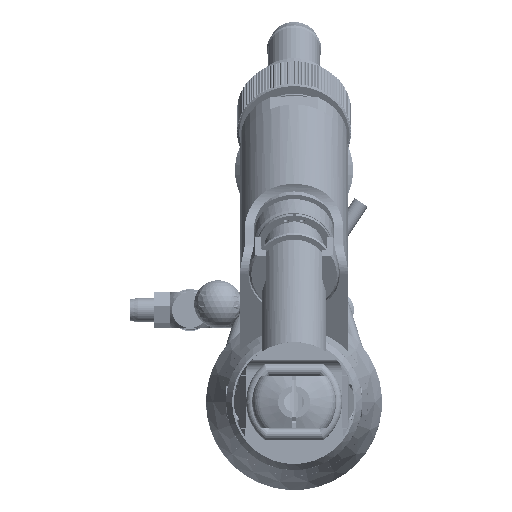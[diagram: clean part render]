
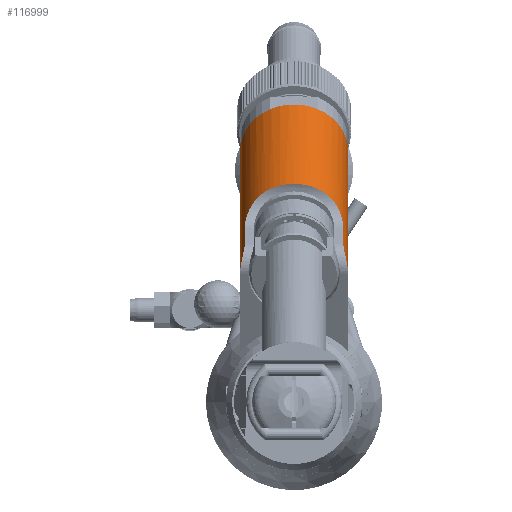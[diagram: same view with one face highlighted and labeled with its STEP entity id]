
A CAD part, left-side view. The second image highlights one B-rep face of the part: STEP entity #116999.
In plain terms, the highlighted cylindrical face has radius 13.5 mm (diameter 27 mm), a partial arc.
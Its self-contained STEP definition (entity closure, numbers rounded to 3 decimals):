
#9151=LINE($,#223098,#15155);
#9533=LINE($,#226544,#15537);
#9538=LINE($,#226561,#15542);
#9539=LINE($,#226574,#15543);
#9540=LINE($,#226610,#15544);
#9541=LINE($,#226622,#15545);
#15155=VECTOR($,#155319,9.);
#15537=VECTOR($,#156695,9.);
#15542=VECTOR($,#156714,50.9);
#15543=VECTOR($,#156715,7.82);
#15544=VECTOR($,#156716,7.82);
#15545=VECTOR($,#156717,50.9);
#21338=B_SPLINE_CURVE_WITH_KNOTS($,3,(#226563,#226564,#226565,#226566,#226567,
#226568,#226569,#226570,#226571,#226572),.UNSPECIFIED.,.F.,.F.,(4,2,2,2,
4),(-1.679,-1.469,-1.259,-1.049,
-0.839),.UNSPECIFIED.);
#21339=B_SPLINE_CURVE_WITH_KNOTS($,3,(#226576,#226577,#226578,#226579,#226580,
#226581,#226582,#226583,#226584,#226585,#226586,#226587,#226588,#226589,
#226590,#226591),.UNSPECIFIED.,.F.,.F.,(4,2,2,2,2,2,2,4),(1.901,
2.307,2.713,2.896,3.08,3.26,
3.441,3.801),.UNSPECIFIED.);
#21340=B_SPLINE_CURVE_WITH_KNOTS($,3,(#226593,#226594,#226595,#226596,#226597,
#226598,#226599,#226600,#226601,#226602,#226603,#226604,#226605,#226606,
#226607,#226608),.UNSPECIFIED.,.F.,.F.,(4,2,2,2,2,2,2,4),(0.,
0.36,0.541,0.721,0.905,
1.089,1.495,1.901),.UNSPECIFIED.);
#21341=B_SPLINE_CURVE_WITH_KNOTS($,3,(#226612,#226613,#226614,#226615,#226616,
#226617,#226618,#226619,#226620,#226621),.UNSPECIFIED.,.F.,.F.,(4,2,2,2,
4),(-2.518,-2.309,-2.099,-1.889,
-1.679),.UNSPECIFIED.);
#23562=CYLINDRICAL_SURFACE($,#128860,13.5);
#31803=FACE_OUTER_BOUND($,#39869,.T.);
#39869=EDGE_LOOP($,(#99204,#99205,#99206,#99207,#99208,#99209,#99210,#99211,
#99212,#99213,#99214,#99215,#99216));
#46625=CIRCLE($,#128858,13.5);
#46626=CIRCLE($,#128859,13.5);
#46627=CIRCLE($,#128861,13.5);
#55981=VERTEX_POINT($,#223095);
#55982=VERTEX_POINT($,#223097);
#56507=VERTEX_POINT($,#226541);
#56508=VERTEX_POINT($,#226543);
#56509=VERTEX_POINT($,#226549);
#56512=VERTEX_POINT($,#226555);
#56513=VERTEX_POINT($,#226560);
#56514=VERTEX_POINT($,#226562);
#56515=VERTEX_POINT($,#226573);
#56516=VERTEX_POINT($,#226575);
#56517=VERTEX_POINT($,#226592);
#56518=VERTEX_POINT($,#226609);
#56519=VERTEX_POINT($,#226611);
#70620=EDGE_CURVE($,#55982,#55981,#9151,.T.);
#71404=EDGE_CURVE($,#56508,#56507,#9533,.T.);
#71407=EDGE_CURVE($,#55982,#56509,#46625,.T.);
#71411=EDGE_CURVE($,#56512,#56507,#46626,.T.);
#71412=EDGE_CURVE($,#56508,#55981,#46627,.T.);
#71413=EDGE_CURVE($,#56513,#56512,#9538,.T.);
#71414=EDGE_CURVE($,#56514,#56513,#21338,.T.);
#71415=EDGE_CURVE($,#56515,#56514,#9539,.T.);
#71416=EDGE_CURVE($,#56516,#56515,#21339,.T.);
#71417=EDGE_CURVE($,#56517,#56516,#21340,.T.);
#71418=EDGE_CURVE($,#56518,#56517,#9540,.T.);
#71419=EDGE_CURVE($,#56519,#56518,#21341,.T.);
#71420=EDGE_CURVE($,#56519,#56509,#9541,.T.);
#99204=ORIENTED_EDGE($,*,*,#70620,.T.);
#99205=ORIENTED_EDGE($,*,*,#71412,.F.);
#99206=ORIENTED_EDGE($,*,*,#71404,.T.);
#99207=ORIENTED_EDGE($,*,*,#71411,.F.);
#99208=ORIENTED_EDGE($,*,*,#71413,.F.);
#99209=ORIENTED_EDGE($,*,*,#71414,.F.);
#99210=ORIENTED_EDGE($,*,*,#71415,.F.);
#99211=ORIENTED_EDGE($,*,*,#71416,.F.);
#99212=ORIENTED_EDGE($,*,*,#71417,.F.);
#99213=ORIENTED_EDGE($,*,*,#71418,.F.);
#99214=ORIENTED_EDGE($,*,*,#71419,.F.);
#99215=ORIENTED_EDGE($,*,*,#71420,.T.);
#99216=ORIENTED_EDGE($,*,*,#71407,.F.);
#116999=ADVANCED_FACE($,(#31803),#23562,.T.);
#128858=AXIS2_PLACEMENT_3D($,#226550,#156703,#156704);
#128859=AXIS2_PLACEMENT_3D($,#226557,#156708,#156709);
#128860=AXIS2_PLACEMENT_3D($,#226558,#156710,#156711);
#128861=AXIS2_PLACEMENT_3D($,#226559,#156712,#156713);
#155319=DIRECTION($,(0.857,0.,0.515));
#156695=DIRECTION($,(-0.857,0.,-0.515));
#156703=DIRECTION('center_axis',(-0.857,0.,
-0.515));
#156704=DIRECTION('ref_axis',(0.,1.,0.));
#156708=DIRECTION('center_axis',(-0.857,0.,
-0.515));
#156709=DIRECTION('ref_axis',(0.,1.,0.));
#156710=DIRECTION('center_axis',(-0.857,0.,
-0.515));
#156711=DIRECTION('ref_axis',(0.,1.,0.));
#156712=DIRECTION('center_axis',(0.857,0.,
0.515));
#156713=DIRECTION('ref_axis',(0.,1.,0.));
#156714=DIRECTION($,(0.857,0.,0.515));
#156715=DIRECTION($,(-0.857,0.,-0.515));
#156716=DIRECTION($,(0.857,0.,0.515));
#156717=DIRECTION($,(0.857,0.,0.515));
#223095=CARTESIAN_POINT('',(159.606,-6.223,52.559));
#223097=CARTESIAN_POINT('',(151.891,-6.223,47.924));
#223098=CARTESIAN_POINT($,(151.891,-6.223,47.924));
#226541=CARTESIAN_POINT('',(152.508,-2.934,46.898));
#226543=CARTESIAN_POINT('',(160.222,-2.934,51.533));
#226544=CARTESIAN_POINT($,(160.222,-2.934,51.533));
#226549=CARTESIAN_POINT('',(145.721,-13.5,58.193));
#226550=CARTESIAN_POINT('Origin',(145.721,0.,
58.193));
#226555=CARTESIAN_POINT('',(145.721,13.5,58.193));
#226557=CARTESIAN_POINT('Origin',(145.721,0.,
58.193));
#226558=CARTESIAN_POINT('Origin',(153.435,0.,
62.828));
#226559=CARTESIAN_POINT('Origin',(153.435,0.,
62.828));
#226560=CARTESIAN_POINT('',(102.091,13.5,31.977));
#226561=CARTESIAN_POINT($,(102.091,13.5,31.977));
#226562=CARTESIAN_POINT('',(103.973,12.329,39.525));
#226563=CARTESIAN_POINT('Ctrl Pts',(103.973,12.329,39.525));
#226564=CARTESIAN_POINT('Ctrl Pts',(103.373,12.329,39.164));
#226565=CARTESIAN_POINT('Ctrl Pts',(102.811,12.395,38.662));
#226566=CARTESIAN_POINT('Ctrl Pts',(101.943,12.623,37.482));
#226567=CARTESIAN_POINT('Ctrl Pts',(101.634,12.782,36.805));
#226568=CARTESIAN_POINT('Ctrl Pts',(101.303,13.073,35.477));
#226569=CARTESIAN_POINT('Ctrl Pts',(101.257,13.226,34.734));
#226570=CARTESIAN_POINT('Ctrl Pts',(101.471,13.44,33.284));
#226571=CARTESIAN_POINT('Ctrl Pts',(101.731,13.5,32.577));
#226572=CARTESIAN_POINT('Ctrl Pts',(102.091,13.5,31.977));
#226573=CARTESIAN_POINT('',(110.676,12.329,43.552));
#226574=CARTESIAN_POINT($,(110.676,12.329,43.552));
#226575=CARTESIAN_POINT('',(113.413,0.,54.53));
#226576=CARTESIAN_POINT('Ctrl Pts',(113.413,0.,
54.53));
#226577=CARTESIAN_POINT('Ctrl Pts',(113.413,1.353,54.53));
#226578=CARTESIAN_POINT('Ctrl Pts',(113.533,2.812,54.349));
#226579=CARTESIAN_POINT('Ctrl Pts',(113.932,5.567,53.539));
#226580=CARTESIAN_POINT('Ctrl Pts',(114.201,6.862,52.905));
#226581=CARTESIAN_POINT('Ctrl Pts',(114.454,8.422,51.735));
#226582=CARTESIAN_POINT('Ctrl Pts',(114.522,8.921,51.29));
#226583=CARTESIAN_POINT('Ctrl Pts',(114.57,9.82,50.307));
#226584=CARTESIAN_POINT('Ctrl Pts',(114.547,10.22,49.77));
#226585=CARTESIAN_POINT('Ctrl Pts',(114.398,10.859,48.749));
#226586=CARTESIAN_POINT('Ctrl Pts',(114.269,11.137,48.21));
#226587=CARTESIAN_POINT('Ctrl Pts',(113.876,11.599,47.132));
#226588=CARTESIAN_POINT('Ctrl Pts',(113.612,11.784,46.592));
#226589=CARTESIAN_POINT('Ctrl Pts',(112.629,12.211,45.063));
#226590=CARTESIAN_POINT('Ctrl Pts',(111.706,12.329,44.171));
#226591=CARTESIAN_POINT('Ctrl Pts',(110.676,12.329,43.552));
#226592=CARTESIAN_POINT('',(110.676,-12.329,43.552));
#226593=CARTESIAN_POINT('Ctrl Pts',(110.676,-12.329,
43.552));
#226594=CARTESIAN_POINT('Ctrl Pts',(111.706,-12.329,44.171));
#226595=CARTESIAN_POINT('Ctrl Pts',(112.629,-12.211,45.063));
#226596=CARTESIAN_POINT('Ctrl Pts',(113.612,-11.784,
46.592));
#226597=CARTESIAN_POINT('Ctrl Pts',(113.876,-11.599,
47.132));
#226598=CARTESIAN_POINT('Ctrl Pts',(114.269,-11.137,
48.21));
#226599=CARTESIAN_POINT('Ctrl Pts',(114.398,-10.859,
48.749));
#226600=CARTESIAN_POINT('Ctrl Pts',(114.547,-10.22,
49.77));
#226601=CARTESIAN_POINT('Ctrl Pts',(114.57,-9.82,50.307));
#226602=CARTESIAN_POINT('Ctrl Pts',(114.522,-8.921,51.29));
#226603=CARTESIAN_POINT('Ctrl Pts',(114.454,-8.422,51.735));
#226604=CARTESIAN_POINT('Ctrl Pts',(114.201,-6.862,52.905));
#226605=CARTESIAN_POINT('Ctrl Pts',(113.932,-5.567,
53.539));
#226606=CARTESIAN_POINT('Ctrl Pts',(113.533,-2.812,54.349));
#226607=CARTESIAN_POINT('Ctrl Pts',(113.413,-1.353,
54.53));
#226608=CARTESIAN_POINT('Ctrl Pts',(113.413,0.,
54.53));
#226609=CARTESIAN_POINT('',(103.973,-12.329,39.525));
#226610=CARTESIAN_POINT($,(103.973,-12.329,39.525));
#226611=CARTESIAN_POINT('',(102.091,-13.5,31.977));
#226612=CARTESIAN_POINT('Ctrl Pts',(102.091,-13.5,
31.977));
#226613=CARTESIAN_POINT('Ctrl Pts',(101.731,-13.5,
32.577));
#226614=CARTESIAN_POINT('Ctrl Pts',(101.471,-13.44,
33.284));
#226615=CARTESIAN_POINT('Ctrl Pts',(101.257,-13.226,34.734));
#226616=CARTESIAN_POINT('Ctrl Pts',(101.303,-13.073,
35.477));
#226617=CARTESIAN_POINT('Ctrl Pts',(101.634,-12.782,
36.805));
#226618=CARTESIAN_POINT('Ctrl Pts',(101.943,-12.623,
37.482));
#226619=CARTESIAN_POINT('Ctrl Pts',(102.811,-12.395,38.662));
#226620=CARTESIAN_POINT('Ctrl Pts',(103.373,-12.329,
39.164));
#226621=CARTESIAN_POINT('Ctrl Pts',(103.973,-12.329,
39.525));
#226622=CARTESIAN_POINT($,(102.091,-13.5,31.977));
